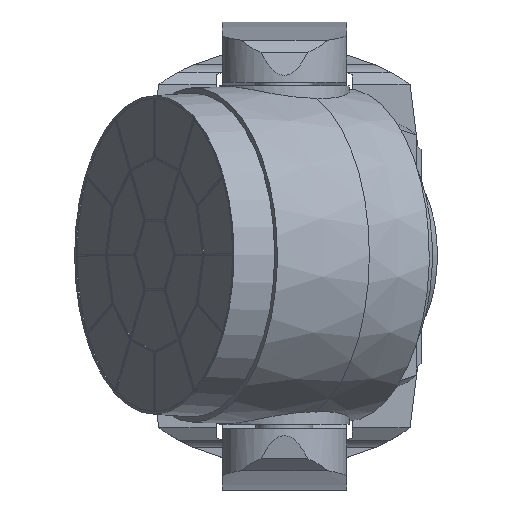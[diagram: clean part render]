
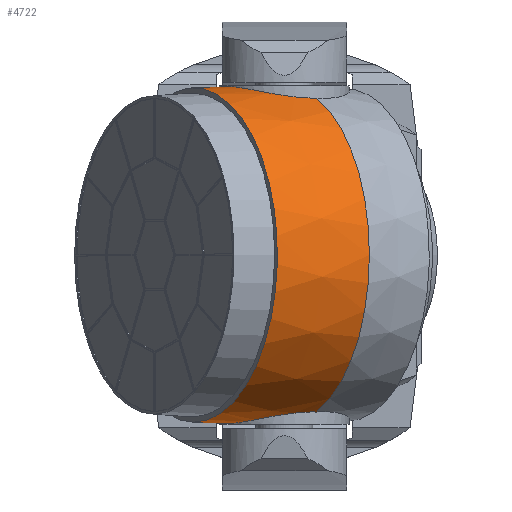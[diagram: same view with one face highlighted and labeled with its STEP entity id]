
A CAD part, top view. The second image highlights one B-rep face of the part: STEP entity #4722.
In plain terms, the highlighted conical face has half-angle 1.5 degrees and reference radius 142.938 mm.
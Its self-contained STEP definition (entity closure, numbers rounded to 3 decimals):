
#21=CONICAL_SURFACE('',#5123,142.938,0.026);
#96=B_SPLINE_CURVE_WITH_KNOTS('',3,(#7359,#7360,#7361,#7362,#7363,#7364,
#7365,#7366,#7367,#7368,#7369,#7370,#7371,#7372,#7373,#7374,#7375,#7376,
#7377,#7378,#7379,#7380,#7381,#7382,#7383,#7384,#7385,#7386,#7387,#7388),
 .UNSPECIFIED.,.F.,.F.,(4,1,1,1,1,1,1,1,1,1,1,1,1,1,1,1,1,1,1,1,1,1,1,1,
1,1,1,4),(0.006,0.011,0.016,0.022,
0.027,0.033,0.038,0.049,
0.054,0.06,0.065,0.07,
0.076,0.081,0.087,0.092,
0.103,0.108,0.114,0.119,
0.124,0.13,0.135,0.141,
0.146,0.157,0.167,0.178),
 .UNSPECIFIED.);
#97=B_SPLINE_CURVE_WITH_KNOTS('',3,(#7393,#7394,#7395,#7396,#7397,#7398,
#7399,#7400,#7401,#7402,#7403,#7404,#7405,#7406,#7407,#7408,#7409,#7410,
#7411,#7412,#7413,#7414,#7415,#7416,#7417,#7418,#7419,#7420,#7421,#7422),
 .UNSPECIFIED.,.F.,.F.,(4,1,1,1,1,1,1,1,1,1,1,1,1,1,1,1,1,1,1,1,1,1,1,1,
1,1,1,4),(0.006,0.011,0.016,0.022,
0.027,0.033,0.038,0.049,
0.054,0.06,0.065,0.07,
0.076,0.081,0.087,0.092,
0.103,0.108,0.114,0.119,
0.124,0.13,0.135,0.141,
0.146,0.157,0.167,0.178),
 .UNSPECIFIED.);
#206=CIRCLE('',#5124,140.633);
#207=CIRCLE('',#5125,142.938);
#208=CIRCLE('',#5126,142.938);
#760=ORIENTED_EDGE('',*,*,#1850,.F.);
#761=ORIENTED_EDGE('',*,*,#1851,.F.);
#762=ORIENTED_EDGE('',*,*,#1852,.T.);
#763=ORIENTED_EDGE('',*,*,#1853,.T.);
#764=ORIENTED_EDGE('',*,*,#1854,.T.);
#1850=EDGE_CURVE('',#2438,#2438,#206,.T.);
#1851=EDGE_CURVE('',#2439,#2440,#96,.T.);
#1852=EDGE_CURVE('',#2439,#2441,#207,.T.);
#1853=EDGE_CURVE('',#2441,#2442,#97,.T.);
#1854=EDGE_CURVE('',#2442,#2440,#208,.T.);
#2438=VERTEX_POINT('',#7358);
#2439=VERTEX_POINT('',#7389);
#2440=VERTEX_POINT('',#7390);
#2441=VERTEX_POINT('',#7392);
#2442=VERTEX_POINT('',#7423);
#3822=EDGE_LOOP('',(#760));
#3823=EDGE_LOOP('',(#761,#762,#763,#764));
#4178=FACE_BOUND('',#3822,.T.);
#4179=FACE_BOUND('',#3823,.T.);
#4722=ADVANCED_FACE('',(#4178,#4179),#21,.T.);
#5123=AXIS2_PLACEMENT_3D('',#7356,#5846,#5847);
#5124=AXIS2_PLACEMENT_3D('',#7357,#5848,#5849);
#5125=AXIS2_PLACEMENT_3D('',#7391,#5850,#5851);
#5126=AXIS2_PLACEMENT_3D('',#7424,#5852,#5853);
#5846=DIRECTION('',(1.,0.,0.));
#5847=DIRECTION('',(0.,0.,-1.));
#5848=DIRECTION('',(-1.,0.,0.));
#5849=DIRECTION('',(0.,-1.,0.));
#5850=DIRECTION('',(-1.,0.,0.));
#5851=DIRECTION('',(0.,1.,0.));
#5852=DIRECTION('',(-1.,0.,0.));
#5853=DIRECTION('',(0.,1.,0.));
#7356=CARTESIAN_POINT('',(0.,0.,323.6));
#7357=CARTESIAN_POINT('',(-88.,0.,323.6));
#7358=CARTESIAN_POINT('',(-88.,-140.633,323.6));
#7359=CARTESIAN_POINT('',(0.,132.005,268.774));
#7360=CARTESIAN_POINT('',(-1.8,131.953,268.773));
#7361=CARTESIAN_POINT('',(-5.388,131.925,268.949));
#7362=CARTESIAN_POINT('',(-10.76,132.103,269.75));
#7363=CARTESIAN_POINT('',(-16.046,132.495,271.091));
#7364=CARTESIAN_POINT('',(-21.086,133.065,272.917));
#7365=CARTESIAN_POINT('',(-25.935,133.792,275.23));
#7366=CARTESIAN_POINT('',(-32.101,134.932,278.966));
#7367=CARTESIAN_POINT('',(-37.545,136.209,283.468));
#7368=CARTESIAN_POINT('',(-42.359,137.516,288.804));
#7369=CARTESIAN_POINT('',(-45.52,138.448,293.09));
#7370=CARTESIAN_POINT('',(-48.251,139.305,297.653));
#7371=CARTESIAN_POINT('',(-50.556,140.067,302.521));
#7372=CARTESIAN_POINT('',(-52.381,140.694,307.626));
#7373=CARTESIAN_POINT('',(-53.683,141.154,312.827));
#7374=CARTESIAN_POINT('',(-54.481,141.441,318.155));
#7375=CARTESIAN_POINT('',(-54.839,141.571,325.46));
#7376=CARTESIAN_POINT('',(-54.13,141.312,332.593));
#7377=CARTESIAN_POINT('',(-52.364,140.687,339.638));
#7378=CARTESIAN_POINT('',(-50.538,140.061,344.717));
#7379=CARTESIAN_POINT('',(-48.254,139.306,349.543));
#7380=CARTESIAN_POINT('',(-45.493,138.439,354.155));
#7381=CARTESIAN_POINT('',(-42.294,137.498,358.473));
#7382=CARTESIAN_POINT('',(-38.736,136.532,362.408));
#7383=CARTESIAN_POINT('',(-34.804,135.566,365.996));
#7384=CARTESIAN_POINT('',(-29.034,134.318,370.299));
#7385=CARTESIAN_POINT('',(-21.239,132.992,374.508));
#7386=CARTESIAN_POINT('',(-10.762,131.995,377.725));
#7387=CARTESIAN_POINT('',(-3.626,131.901,378.428));
#7388=CARTESIAN_POINT('',(0.,132.005,378.426));
#7389=CARTESIAN_POINT('',(0.,132.005,268.774));
#7390=CARTESIAN_POINT('',(0.,132.005,378.426));
#7391=CARTESIAN_POINT('',(0.,0.,323.6));
#7392=CARTESIAN_POINT('',(0.,-132.005,268.774));
#7393=CARTESIAN_POINT('',(0.,-132.005,268.774));
#7394=CARTESIAN_POINT('',(-1.8,-131.953,268.773));
#7395=CARTESIAN_POINT('',(-5.388,-131.925,268.949));
#7396=CARTESIAN_POINT('',(-10.76,-132.103,269.75));
#7397=CARTESIAN_POINT('',(-16.046,-132.495,271.091));
#7398=CARTESIAN_POINT('',(-21.086,-133.065,272.917));
#7399=CARTESIAN_POINT('',(-25.935,-133.792,275.23));
#7400=CARTESIAN_POINT('',(-32.101,-134.932,278.966));
#7401=CARTESIAN_POINT('',(-37.545,-136.209,283.468));
#7402=CARTESIAN_POINT('',(-42.359,-137.516,288.804));
#7403=CARTESIAN_POINT('',(-45.52,-138.448,293.09));
#7404=CARTESIAN_POINT('',(-48.251,-139.305,297.653));
#7405=CARTESIAN_POINT('',(-50.556,-140.067,302.521));
#7406=CARTESIAN_POINT('',(-52.381,-140.694,307.626));
#7407=CARTESIAN_POINT('',(-53.683,-141.154,312.827));
#7408=CARTESIAN_POINT('',(-54.481,-141.441,318.155));
#7409=CARTESIAN_POINT('',(-54.839,-141.571,325.46));
#7410=CARTESIAN_POINT('',(-54.13,-141.312,332.593));
#7411=CARTESIAN_POINT('',(-52.364,-140.687,339.638));
#7412=CARTESIAN_POINT('',(-50.538,-140.061,344.717));
#7413=CARTESIAN_POINT('',(-48.254,-139.306,349.543));
#7414=CARTESIAN_POINT('',(-45.493,-138.439,354.155));
#7415=CARTESIAN_POINT('',(-42.294,-137.498,358.473));
#7416=CARTESIAN_POINT('',(-38.736,-136.532,362.408));
#7417=CARTESIAN_POINT('',(-34.804,-135.566,365.996));
#7418=CARTESIAN_POINT('',(-29.034,-134.318,370.299));
#7419=CARTESIAN_POINT('',(-21.239,-132.992,374.508));
#7420=CARTESIAN_POINT('',(-10.762,-131.995,377.725));
#7421=CARTESIAN_POINT('',(-3.626,-131.901,378.428));
#7422=CARTESIAN_POINT('',(0.,-132.005,378.426));
#7423=CARTESIAN_POINT('',(0.,-132.005,378.426));
#7424=CARTESIAN_POINT('',(0.,0.,323.6));
